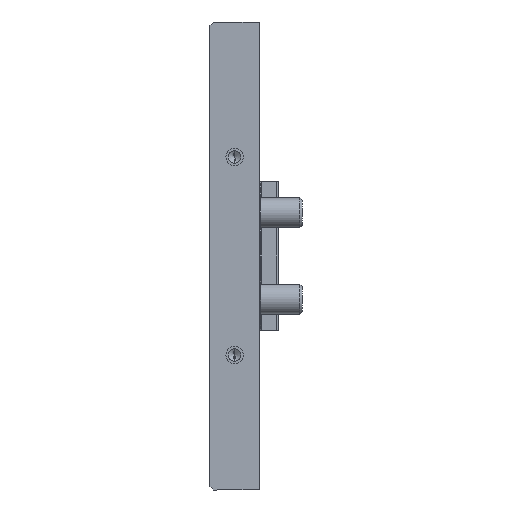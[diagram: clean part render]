
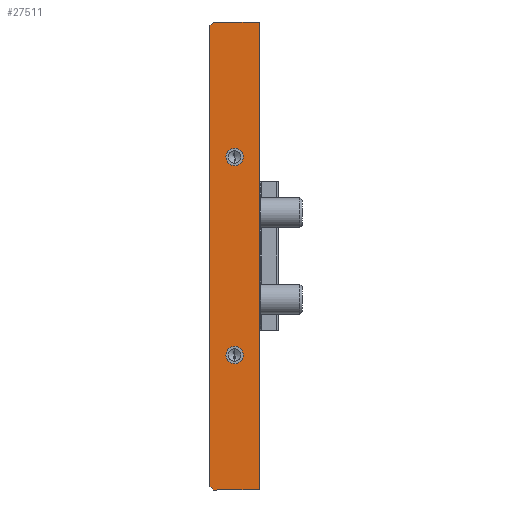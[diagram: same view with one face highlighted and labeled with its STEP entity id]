
A CAD part, left-side view. The second image highlights one B-rep face of the part: STEP entity #27511.
In plain terms, the highlighted planar face has unit normal (-1, 0, 0) as drawn and (0, 0, 1) by its records, which use the part's own axes.
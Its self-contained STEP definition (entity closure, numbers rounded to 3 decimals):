
#273 = AXIS2_PLACEMENT_3D ( 'NONE', #22863, #4290, #4190 ) ;
#1635 = AXIS2_PLACEMENT_3D ( 'NONE', #8463, #25145, #3530 ) ;
#2751 = CARTESIAN_POINT ( 'NONE',  ( -94.5, 0., 0. ) ) ;
#2855 = FACE_BOUND ( 'NONE', #10459, .T. ) ;
#3399 = VERTEX_POINT ( 'NONE', #23521 ) ;
#3498 = DIRECTION ( 'NONE',  ( 1., 0., 0. ) ) ;
#3521 = EDGE_LOOP ( 'NONE', ( #20747, #29499 ) ) ;
#3530 = DIRECTION ( 'NONE',  ( 1., 0., 0. ) ) ;
#3624 = EDGE_CURVE ( 'NONE', #27708, #9454, #9017, .T. ) ;
#3677 = CARTESIAN_POINT ( 'NONE',  ( -94.5, 20., 0. ) ) ;
#3708 = EDGE_CURVE ( 'NONE', #3399, #25514, #10933, .T. ) ;
#4190 = DIRECTION ( 'NONE',  ( 1., 0., 0. ) ) ;
#4289 = DIRECTION ( 'NONE',  ( 0., -1., 0. ) ) ;
#4290 = DIRECTION ( 'NONE',  ( 0., 0., 1. ) ) ;
#4584 = LINE ( 'NONE', #26097, #7898 ) ;
#5140 = ORIENTED_EDGE ( 'NONE', *, *, #15006, .T. ) ;
#6372 = LINE ( 'NONE', #12442, #22730 ) ;
#6675 = LINE ( 'NONE', #9192, #13050 ) ;
#6918 = EDGE_CURVE ( 'NONE', #24298, #15272, #13554, .T. ) ;
#7212 = AXIS2_PLACEMENT_3D ( 'NONE', #18983, #9754, #26177 ) ;
#7898 = VECTOR ( 'NONE', #11993, 1000. ) ;
#8352 = CIRCLE ( 'NONE', #7212, 3.5 ) ;
#8463 = CARTESIAN_POINT ( 'NONE',  ( -40., 10., 0. ) ) ;
#9017 = LINE ( 'NONE', #3677, #23946 ) ;
#9192 = CARTESIAN_POINT ( 'NONE',  ( -94.5, 0., 0. ) ) ;
#9454 = VERTEX_POINT ( 'NONE', #20857 ) ;
#9754 = DIRECTION ( 'NONE',  ( 0., 0., 1. ) ) ;
#10459 = EDGE_LOOP ( 'NONE', ( #24683, #22325 ) ) ;
#10929 = PLANE ( 'NONE',  #26021 ) ;
#10933 = CIRCLE ( 'NONE', #273, 3.5 ) ;
#11151 = CARTESIAN_POINT ( 'NONE',  ( 94.5, 20., 0. ) ) ;
#11974 = CIRCLE ( 'NONE', #17665, 3.5 ) ;
#11993 = DIRECTION ( 'NONE',  ( -0.707, -0.707, 0. ) ) ;
#12355 = CARTESIAN_POINT ( 'NONE',  ( -36.5, 10., 0. ) ) ;
#12442 = CARTESIAN_POINT ( 'NONE',  ( 93., 20., 0. ) ) ;
#12499 = CARTESIAN_POINT ( 'NONE',  ( -93., 20., 0. ) ) ;
#13050 = VECTOR ( 'NONE', #30107, 1000. ) ;
#13224 = DIRECTION ( 'NONE',  ( -1., 0., 0. ) ) ;
#13554 = LINE ( 'NONE', #11151, #24742 ) ;
#13901 = CARTESIAN_POINT ( 'NONE',  ( -94.5, 20., 0. ) ) ;
#14763 = DIRECTION ( 'NONE',  ( -0.707, 0.707, 0. ) ) ;
#15006 = EDGE_CURVE ( 'NONE', #15403, #25708, #28872, .T. ) ;
#15161 = EDGE_CURVE ( 'NONE', #29328, #21876, #8352, .T. ) ;
#15272 = VERTEX_POINT ( 'NONE', #17081 ) ;
#15403 = VERTEX_POINT ( 'NONE', #22708 ) ;
#16392 = EDGE_CURVE ( 'NONE', #27708, #15403, #4584, .T. ) ;
#16593 = CARTESIAN_POINT ( 'NONE',  ( 94.5, 18.5, 0. ) ) ;
#17081 = CARTESIAN_POINT ( 'NONE',  ( 94.5, 0., 0. ) ) ;
#17369 = EDGE_LOOP ( 'NONE', ( #21802, #24321, #26429, #19382, #5140, #23938 ) ) ;
#17665 = AXIS2_PLACEMENT_3D ( 'NONE', #27297, #17689, #3498 ) ;
#17689 = DIRECTION ( 'NONE',  ( 0., 0., 1. ) ) ;
#18028 = FACE_BOUND ( 'NONE', #3521, .T. ) ;
#18983 = CARTESIAN_POINT ( 'NONE',  ( -40., 10., 0. ) ) ;
#19325 = EDGE_CURVE ( 'NONE', #25514, #3399, #11974, .T. ) ;
#19382 = ORIENTED_EDGE ( 'NONE', *, *, #16392, .T. ) ;
#20623 = VECTOR ( 'NONE', #21054, 1000. ) ;
#20747 = ORIENTED_EDGE ( 'NONE', *, *, #23447, .F. ) ;
#20857 = CARTESIAN_POINT ( 'NONE',  ( 93., 20., 0. ) ) ;
#21054 = DIRECTION ( 'NONE',  ( 0., -1., 0. ) ) ;
#21063 = CARTESIAN_POINT ( 'NONE',  ( -94.5, 20., 0. ) ) ;
#21108 = FACE_OUTER_BOUND ( 'NONE', #17369, .T. ) ;
#21802 = ORIENTED_EDGE ( 'NONE', *, *, #6918, .F. ) ;
#21876 = VERTEX_POINT ( 'NONE', #12355 ) ;
#22325 = ORIENTED_EDGE ( 'NONE', *, *, #19325, .F. ) ;
#22649 = DIRECTION ( 'NONE',  ( 0., 0., -1. ) ) ;
#22708 = CARTESIAN_POINT ( 'NONE',  ( -94.5, 18.5, 0. ) ) ;
#22730 = VECTOR ( 'NONE', #14763, 1000. ) ;
#22863 = CARTESIAN_POINT ( 'NONE',  ( 40., 10., 0. ) ) ;
#22889 = EDGE_CURVE ( 'NONE', #24298, #9454, #6372, .T. ) ;
#23447 = EDGE_CURVE ( 'NONE', #21876, #29328, #30136, .T. ) ;
#23521 = CARTESIAN_POINT ( 'NONE',  ( 43.5, 10., 0. ) ) ;
#23938 = ORIENTED_EDGE ( 'NONE', *, *, #30095, .T. ) ;
#23946 = VECTOR ( 'NONE', #25096, 1000. ) ;
#24298 = VERTEX_POINT ( 'NONE', #16593 ) ;
#24321 = ORIENTED_EDGE ( 'NONE', *, *, #22889, .T. ) ;
#24683 = ORIENTED_EDGE ( 'NONE', *, *, #3708, .F. ) ;
#24742 = VECTOR ( 'NONE', #4289, 1000. ) ;
#25096 = DIRECTION ( 'NONE',  ( 1., 0., 0. ) ) ;
#25145 = DIRECTION ( 'NONE',  ( 0., 0., 1. ) ) ;
#25514 = VERTEX_POINT ( 'NONE', #28198 ) ;
#25708 = VERTEX_POINT ( 'NONE', #2751 ) ;
#26021 = AXIS2_PLACEMENT_3D ( 'NONE', #21063, #22649, #13224 ) ;
#26097 = CARTESIAN_POINT ( 'NONE',  ( -93., 20., 0. ) ) ;
#26177 = DIRECTION ( 'NONE',  ( 1., 0., 0. ) ) ;
#26429 = ORIENTED_EDGE ( 'NONE', *, *, #3624, .F. ) ;
#27297 = CARTESIAN_POINT ( 'NONE',  ( 40., 10., 0. ) ) ;
#27511 = ADVANCED_FACE ( 'NONE', ( #2855, #18028, #21108 ), #10929, .F. ) ;
#27708 = VERTEX_POINT ( 'NONE', #12499 ) ;
#28198 = CARTESIAN_POINT ( 'NONE',  ( 36.5, 10., 0. ) ) ;
#28872 = LINE ( 'NONE', #13901, #20623 ) ;
#29328 = VERTEX_POINT ( 'NONE', #29657 ) ;
#29499 = ORIENTED_EDGE ( 'NONE', *, *, #15161, .F. ) ;
#29657 = CARTESIAN_POINT ( 'NONE',  ( -43.5, 10., 0. ) ) ;
#30095 = EDGE_CURVE ( 'NONE', #25708, #15272, #6675, .T. ) ;
#30107 = DIRECTION ( 'NONE',  ( 1., 0., 0. ) ) ;
#30136 = CIRCLE ( 'NONE', #1635, 3.5 ) ;
